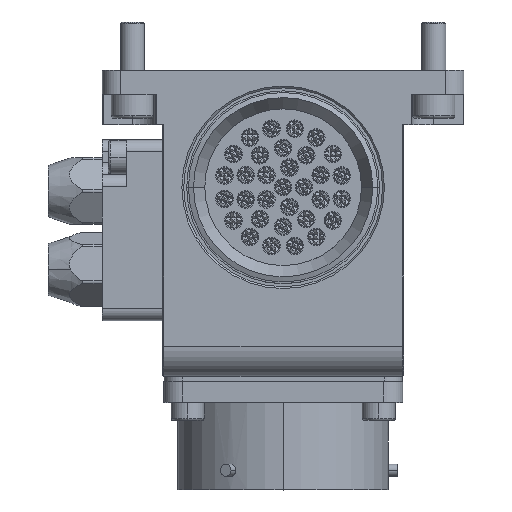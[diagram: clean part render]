
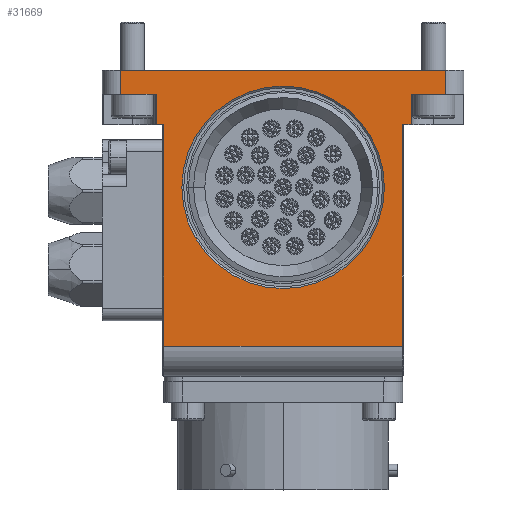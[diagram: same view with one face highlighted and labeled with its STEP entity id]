
A CAD part, top view. The second image highlights one B-rep face of the part: STEP entity #31669.
In plain terms, the highlighted planar face has unit normal (0, 0, 1).
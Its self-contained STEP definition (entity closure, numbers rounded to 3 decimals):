
#316 = VECTOR ( 'NONE', #28931, 1000. ) ;
#878 = VERTEX_POINT ( 'NONE', #9915 ) ;
#1085 = PLANE ( 'NONE',  #8532 ) ;
#2140 = ORIENTED_EDGE ( 'NONE', *, *, #47480, .T. ) ;
#2428 = EDGE_CURVE ( 'NONE', #22207, #20271, #8995, .T. ) ;
#3271 = FACE_OUTER_BOUND ( 'NONE', #44888, .T. ) ;
#4307 = CARTESIAN_POINT ( 'NONE',  ( -1.784, 1.82, 0. ) ) ;
#4361 = DIRECTION ( 'NONE',  ( 0., 1., 0. ) ) ;
#4472 = CARTESIAN_POINT ( 'NONE',  ( 15.016, 0., 0. ) ) ;
#4572 = VERTEX_POINT ( 'NONE', #37197 ) ;
#5772 = CARTESIAN_POINT ( 'NONE',  ( -4.784, 0., 0. ) ) ;
#5973 = VERTEX_POINT ( 'NONE', #4307 ) ;
#6023 = CARTESIAN_POINT ( 'NONE',  ( 15.016, 12.25, 0. ) ) ;
#6055 = VECTOR ( 'NONE', #4361, 1000. ) ;
#6499 = CARTESIAN_POINT ( 'NONE',  ( 15.016, 1.82, 0. ) ) ;
#6870 = CARTESIAN_POINT ( 'NONE',  ( -6.034, 0., 0. ) ) ;
#7819 = VECTOR ( 'NONE', #32214, 1000. ) ;
#8042 = CARTESIAN_POINT ( 'NONE',  ( 34.816, 12.25, 0. ) ) ;
#8254 = LINE ( 'NONE', #19282, #40587 ) ;
#8532 = AXIS2_PLACEMENT_3D ( 'NONE', #4472, #26539, #15968 ) ;
#8671 = LINE ( 'NONE', #6023, #27148 ) ;
#8995 = LINE ( 'NONE', #38273, #28542 ) ;
#9915 = CARTESIAN_POINT ( 'NONE',  ( 36.266, 17.25, 0. ) ) ;
#9964 = LINE ( 'NONE', #24591, #45447 ) ;
#10270 = ORIENTED_EDGE ( 'NONE', *, *, #19271, .T. ) ;
#10794 = DIRECTION ( 'NONE',  ( 1., 0., 0. ) ) ;
#11003 = EDGE_CURVE ( 'NONE', #878, #46157, #17909, .T. ) ;
#11101 = LINE ( 'NONE', #13736, #7819 ) ;
#11423 = CARTESIAN_POINT ( 'NONE',  ( 31.816, 1.82, 0. ) ) ;
#12383 = ORIENTED_EDGE ( 'NONE', *, *, #26045, .T. ) ;
#12890 = ORIENTED_EDGE ( 'NONE', *, *, #40864, .T. ) ;
#12891 = VERTEX_POINT ( 'NONE', #37781 ) ;
#13233 = VECTOR ( 'NONE', #14230, 1000. ) ;
#13350 = EDGE_CURVE ( 'NONE', #36377, #37033, #8671, .T. ) ;
#13477 = EDGE_CURVE ( 'NONE', #18309, #5973, #22529, .T. ) ;
#13736 = CARTESIAN_POINT ( 'NONE',  ( 42.016, 21.25, 0. ) ) ;
#14230 = DIRECTION ( 'NONE',  ( 1., 0., 0. ) ) ;
#14688 = VERTEX_POINT ( 'NONE', #46599 ) ;
#15174 = CARTESIAN_POINT ( 'NONE',  ( -4.784, 12.25, 0. ) ) ;
#15405 = EDGE_CURVE ( 'NONE', #19355, #22207, #17412, .T. ) ;
#15609 = CARTESIAN_POINT ( 'NONE',  ( 34.816, 0., 0. ) ) ;
#15968 = DIRECTION ( 'NONE',  ( 1., 0., 0. ) ) ;
#16431 = DIRECTION ( 'NONE',  ( 1., 0., 0. ) ) ;
#17412 = LINE ( 'NONE', #6870, #316 ) ;
#17909 = LINE ( 'NONE', #21511, #22764 ) ;
#17916 = CARTESIAN_POINT ( 'NONE',  ( 42.016, 17.25, 0. ) ) ;
#18309 = VERTEX_POINT ( 'NONE', #11423 ) ;
#18310 = VERTEX_POINT ( 'NONE', #45026 ) ;
#18981 = EDGE_LOOP ( 'NONE', ( #43041, #2140 ) ) ;
#19271 = EDGE_CURVE ( 'NONE', #20271, #14688, #20624, .T. ) ;
#19282 = CARTESIAN_POINT ( 'NONE',  ( 36.266, 0., 0. ) ) ;
#19355 = VERTEX_POINT ( 'NONE', #31425 ) ;
#20118 = DIRECTION ( 'NONE',  ( -1., 0., 0. ) ) ;
#20271 = VERTEX_POINT ( 'NONE', #15174 ) ;
#20384 = AXIS2_PLACEMENT_3D ( 'NONE', #32528, #25805, #21725 ) ;
#20624 = LINE ( 'NONE', #5772, #30397 ) ;
#21281 = EDGE_CURVE ( 'NONE', #4572, #19355, #25515, .T. ) ;
#21511 = CARTESIAN_POINT ( 'NONE',  ( 15.016, 17.25, 0. ) ) ;
#21725 = DIRECTION ( 'NONE',  ( 1., 0., 0. ) ) ;
#22207 = VERTEX_POINT ( 'NONE', #29228 ) ;
#22529 = CIRCLE ( 'NONE', #32504, 16.8 ) ;
#22764 = VECTOR ( 'NONE', #28954, 1000. ) ;
#23724 = VECTOR ( 'NONE', #20118, 1000. ) ;
#24034 = ORIENTED_EDGE ( 'NONE', *, *, #30601, .T. ) ;
#24591 = CARTESIAN_POINT ( 'NONE',  ( 15.016, -24.55, 0. ) ) ;
#25215 = EDGE_CURVE ( 'NONE', #43362, #36377, #38174, .T. ) ;
#25436 = DIRECTION ( 'NONE',  ( 0., 0., -1. ) ) ;
#25515 = LINE ( 'NONE', #29102, #13233 ) ;
#25805 = DIRECTION ( 'NONE',  ( 0., 0., -1. ) ) ;
#26045 = EDGE_CURVE ( 'NONE', #37033, #878, #8254, .T. ) ;
#26295 = EDGE_CURVE ( 'NONE', #4572, #12891, #43501, .T. ) ;
#26539 = DIRECTION ( 'NONE',  ( 0., 0., 1. ) ) ;
#26812 = ORIENTED_EDGE ( 'NONE', *, *, #25215, .T. ) ;
#27148 = VECTOR ( 'NONE', #38898, 1000. ) ;
#27836 = CARTESIAN_POINT ( 'NONE',  ( 34.816, -24.55, 0. ) ) ;
#28542 = VECTOR ( 'NONE', #16431, 1000. ) ;
#28708 = ORIENTED_EDGE ( 'NONE', *, *, #26295, .F. ) ;
#28931 = DIRECTION ( 'NONE',  ( 0., -1., 0. ) ) ;
#28954 = DIRECTION ( 'NONE',  ( 1., 0., 0. ) ) ;
#29102 = CARTESIAN_POINT ( 'NONE',  ( 15.016, 17.25, 0. ) ) ;
#29228 = CARTESIAN_POINT ( 'NONE',  ( -6.034, 12.25, 0. ) ) ;
#29565 = CARTESIAN_POINT ( 'NONE',  ( -11.984, 0., 0. ) ) ;
#30397 = VECTOR ( 'NONE', #43193, 1000. ) ;
#30601 = EDGE_CURVE ( 'NONE', #18310, #12891, #45342, .T. ) ;
#30638 = VECTOR ( 'NONE', #43748, 1000. ) ;
#31095 = CIRCLE ( 'NONE', #20384, 16.8 ) ;
#31241 = ORIENTED_EDGE ( 'NONE', *, *, #11003, .T. ) ;
#31425 = CARTESIAN_POINT ( 'NONE',  ( -6.034, 17.25, 0. ) ) ;
#31669 = ADVANCED_FACE ( 'NONE', ( #3271, #37135 ), #1085, .T. ) ;
#32052 = DIRECTION ( 'NONE',  ( 1., 0., 0. ) ) ;
#32214 = DIRECTION ( 'NONE',  ( 0., -1., 0. ) ) ;
#32504 = AXIS2_PLACEMENT_3D ( 'NONE', #6499, #25436, #10794 ) ;
#32528 = CARTESIAN_POINT ( 'NONE',  ( 15.016, 1.82, 0. ) ) ;
#33930 = DIRECTION ( 'NONE',  ( 0., 1., 0. ) ) ;
#36377 = VERTEX_POINT ( 'NONE', #8042 ) ;
#36995 = ORIENTED_EDGE ( 'NONE', *, *, #15405, .T. ) ;
#37033 = VERTEX_POINT ( 'NONE', #40104 ) ;
#37135 = FACE_BOUND ( 'NONE', #18981, .T. ) ;
#37197 = CARTESIAN_POINT ( 'NONE',  ( -11.984, 17.25, 0. ) ) ;
#37307 = ORIENTED_EDGE ( 'NONE', *, *, #43202, .F. ) ;
#37781 = CARTESIAN_POINT ( 'NONE',  ( -11.984, 21.25, 0. ) ) ;
#38174 = LINE ( 'NONE', #15609, #6055 ) ;
#38273 = CARTESIAN_POINT ( 'NONE',  ( 15.016, 12.25, 0. ) ) ;
#38368 = CARTESIAN_POINT ( 'NONE',  ( -14.984, 21.25, 0. ) ) ;
#38898 = DIRECTION ( 'NONE',  ( 1., 0., 0. ) ) ;
#38980 = ORIENTED_EDGE ( 'NONE', *, *, #21281, .T. ) ;
#40104 = CARTESIAN_POINT ( 'NONE',  ( 36.266, 12.25, 0. ) ) ;
#40305 = ORIENTED_EDGE ( 'NONE', *, *, #2428, .T. ) ;
#40587 = VECTOR ( 'NONE', #33930, 1000. ) ;
#40864 = EDGE_CURVE ( 'NONE', #14688, #43362, #9964, .T. ) ;
#43041 = ORIENTED_EDGE ( 'NONE', *, *, #13477, .T. ) ;
#43193 = DIRECTION ( 'NONE',  ( 0., -1., 0. ) ) ;
#43202 = EDGE_CURVE ( 'NONE', #18310, #46157, #11101, .T. ) ;
#43362 = VERTEX_POINT ( 'NONE', #27836 ) ;
#43501 = LINE ( 'NONE', #29565, #30638 ) ;
#43748 = DIRECTION ( 'NONE',  ( 0., 1., 0. ) ) ;
#44888 = EDGE_LOOP ( 'NONE', ( #40305, #10270, #12890, #26812, #46650, #12383, #31241, #37307, #24034, #28708, #38980, #36995 ) ) ;
#45026 = CARTESIAN_POINT ( 'NONE',  ( 42.016, 21.25, 0. ) ) ;
#45342 = LINE ( 'NONE', #38368, #23724 ) ;
#45447 = VECTOR ( 'NONE', #32052, 1000. ) ;
#46157 = VERTEX_POINT ( 'NONE', #17916 ) ;
#46599 = CARTESIAN_POINT ( 'NONE',  ( -4.784, -24.55, 0. ) ) ;
#46650 = ORIENTED_EDGE ( 'NONE', *, *, #13350, .T. ) ;
#47480 = EDGE_CURVE ( 'NONE', #5973, #18309, #31095, .T. ) ;
